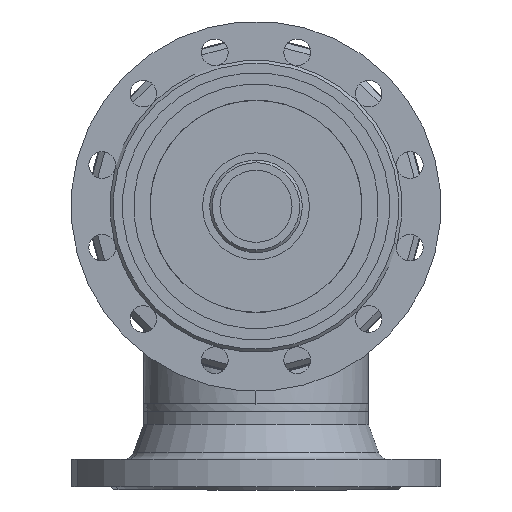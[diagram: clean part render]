
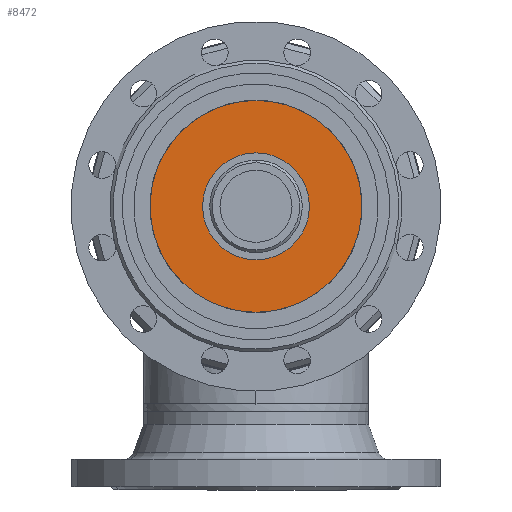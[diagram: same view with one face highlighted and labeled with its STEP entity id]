
A CAD part, front view. The second image highlights one B-rep face of the part: STEP entity #8472.
In plain terms, the highlighted planar face has unit normal (0, -1, 0).
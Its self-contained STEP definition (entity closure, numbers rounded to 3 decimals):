
#16422 = CIRCLE ( 'NONE', #16423, 120. ) ;
#16423 = AXIS2_PLACEMENT_3D ( 'NONE', #16424, #16425, #16426 ) ;
#16424 = CARTESIAN_POINT ( 'NONE',  ( 0., -48., 0. ) ) ;
#16425 = DIRECTION ( 'NONE',  ( 0., -1., 0. ) ) ;
#16426 = DIRECTION ( 'NONE',  ( 0., 0., -1. ) ) ;
#17597 = ORIENTED_EDGE ( 'NONE', *, *, #14831, .T. ) ;
#18655 = CARTESIAN_POINT ( 'NONE',  ( 0., -48., -52. ) ) ;
#3253 = CIRCLE ( 'NONE', #3254, 52. ) ;
#3254 = AXIS2_PLACEMENT_3D ( 'NONE', #3255, #3256, #3257 ) ;
#3255 = CARTESIAN_POINT ( 'NONE',  ( 0., -48., 0. ) ) ;
#3256 = DIRECTION ( 'NONE',  ( 0., -1., 0. ) ) ;
#3257 = DIRECTION ( 'NONE',  ( 0., 0., -1. ) ) ;
#4204 = ORIENTED_EDGE ( 'NONE', *, *, #11186, .T. ) ;
#4874 = EDGE_LOOP ( 'NONE', ( #4204, #17597 ) ) ;
#5335 = ORIENTED_EDGE ( 'NONE', *, *, #23877, .F. ) ;
#22668 = CIRCLE ( 'NONE', #22669, 52. ) ;
#22669 = AXIS2_PLACEMENT_3D ( 'NONE', #22670, #22671, #22672 ) ;
#22670 = CARTESIAN_POINT ( 'NONE',  ( 0., -48., 0. ) ) ;
#22671 = DIRECTION ( 'NONE',  ( 0., -1., 0. ) ) ;
#22672 = DIRECTION ( 'NONE',  ( 0., 0., -1. ) ) ;
#6324 = EDGE_CURVE ( 'NONE', #12451, #25182, #3253, .T. ) ;
#7033 = ORIENTED_EDGE ( 'NONE', *, *, #6324, .F. ) ;
#23877 = EDGE_CURVE ( 'NONE', #25182, #12451, #22668, .T. ) ;
#8020 = EDGE_LOOP ( 'NONE', ( #7033, #5335 ) ) ;
#24670 = CARTESIAN_POINT ( 'NONE',  ( 0., -48., 52. ) ) ;
#8472 = ADVANCED_FACE ( 'NONE', ( #14750, #14751 ), #14770, .T. ) ;
#25133 = CARTESIAN_POINT ( 'NONE',  ( 0., -48., 120. ) ) ;
#25182 = VERTEX_POINT ( 'NONE', #24670 ) ;
#25284 = CARTESIAN_POINT ( 'NONE',  ( 0., -48., -120. ) ) ;
#26005 = CIRCLE ( 'NONE', #26006, 120. ) ;
#26006 = AXIS2_PLACEMENT_3D ( 'NONE', #26007, #26008, #26009 ) ;
#26007 = CARTESIAN_POINT ( 'NONE',  ( 0., -48., 0. ) ) ;
#26008 = DIRECTION ( 'NONE',  ( 0., -1., 0. ) ) ;
#26009 = DIRECTION ( 'NONE',  ( 0., 0., -1. ) ) ;
#11186 = EDGE_CURVE ( 'NONE', #14371, #14604, #16422, .T. ) ;
#12451 = VERTEX_POINT ( 'NONE', #18655 ) ;
#14371 = VERTEX_POINT ( 'NONE', #25133 ) ;
#14604 = VERTEX_POINT ( 'NONE', #25284 ) ;
#14750 = FACE_BOUND ( 'NONE', #8020, .T. ) ;
#14751 = FACE_OUTER_BOUND ( 'NONE', #4874, .T. ) ;
#14770 = PLANE ( 'NONE',  #14771 ) ;
#14771 = AXIS2_PLACEMENT_3D ( 'NONE', #14772, #14773, #14774 ) ;
#14772 = CARTESIAN_POINT ( 'NONE',  ( 0., -48., 0. ) ) ;
#14773 = DIRECTION ( 'NONE',  ( 0., -1., 0. ) ) ;
#14774 = DIRECTION ( 'NONE',  ( 0., 0., -1. ) ) ;
#14831 = EDGE_CURVE ( 'NONE', #14604, #14371, #26005, .T. ) ;
